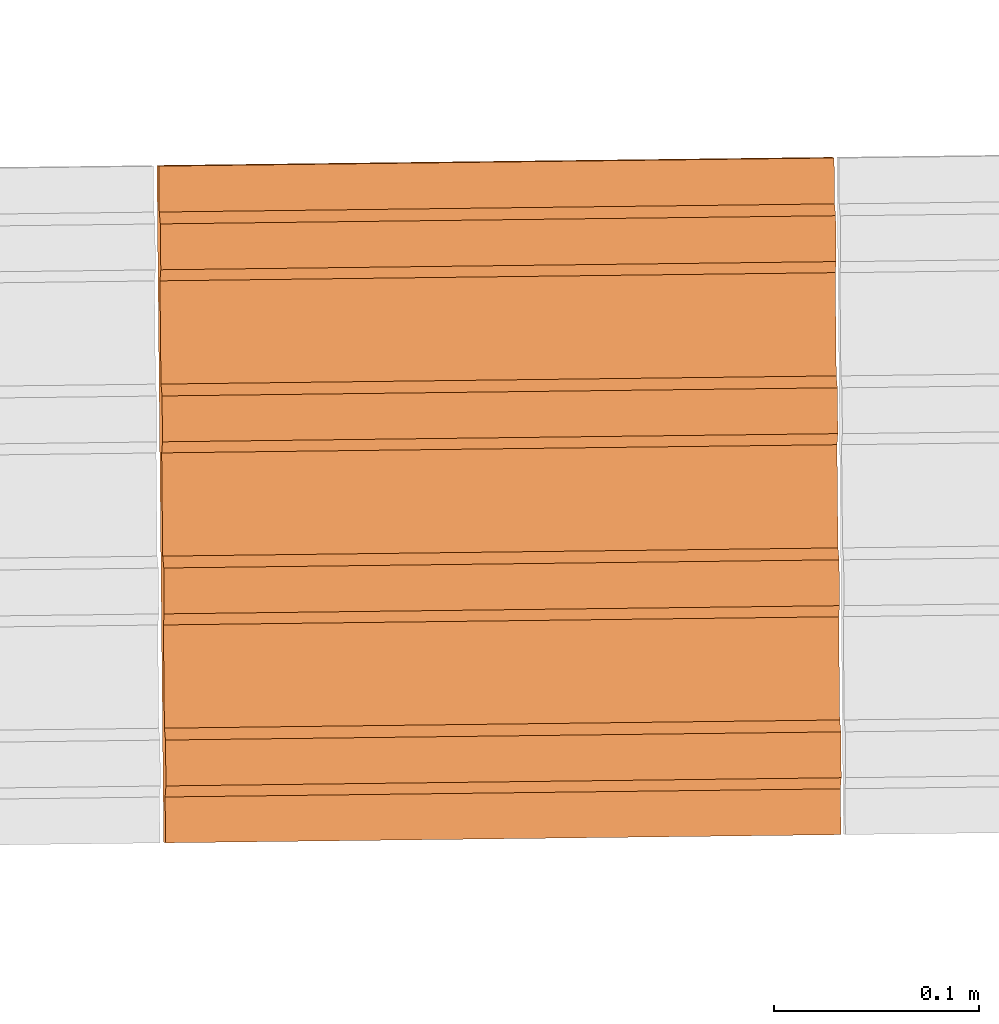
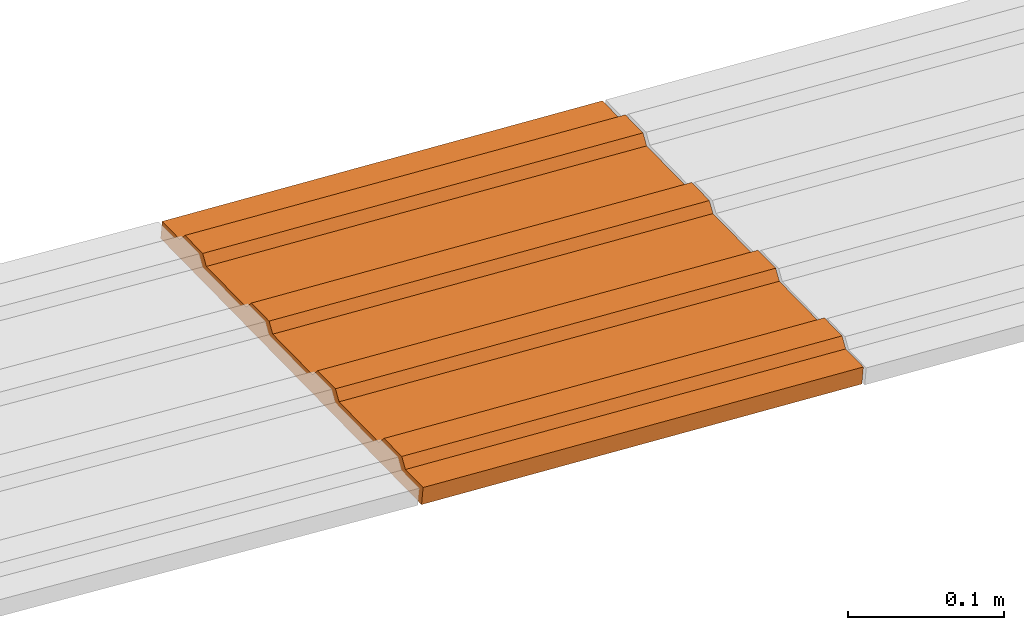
# One storey, part 226 of 237: 1 proxy.
"""IFC2X3 building model written with IfcOpenShell, lengths in millimetres."""

from ifc_helpers import new_model, entity, si_unit, converted_unit, derived_unit, money_unit, direction, frame, origin_with_axes, place, context, subcontext, project, spatial, open_shell, surface_model, type_object, element, save


model = new_model("IFC2X3")

# Units and contexts
model_context = context("Model", 3, precision=0.01, world=origin_with_axes(), true_north=direction((0.0, 1.0)))
body_context = subcontext(model_context, "Body", "Model", "MODEL_VIEW")
ifc_project = project(units=[si_unit("LENGTHUNIT", "METRE", prefix="MILLI"), si_unit("AREAUNIT", "SQUARE_METRE"), si_unit("VOLUMEUNIT", "CUBIC_METRE"), converted_unit("PLANEANGLEUNIT", "DEGREE", entity("IfcPlaneAngleMeasure", 0.0174532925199), si_unit("PLANEANGLEUNIT", "RADIAN"), dimensions=[0, 0, 0, 0, 0, 0, 0]), money_unit("USD"), converted_unit("TIMEUNIT", "Year", entity("IfcTimeMeasure", 31556926.0), si_unit("TIMEUNIT", "SECOND"), dimensions=[0, 0, 1, 0, 0, 0, 0]), si_unit("MASSUNIT", "GRAM", prefix="KILO"), si_unit("THERMODYNAMICTEMPERATUREUNIT", "DEGREE_CELSIUS"), si_unit("LUMINOUSINTENSITYUNIT", "LUMEN"), si_unit("ENERGYUNIT", "JOULE", prefix="MEGA"), derived_unit("THERMALCONDUCTANCEUNIT", [(si_unit("POWERUNIT", "WATT"), 1), (si_unit("LENGTHUNIT", "METRE"), -1), (si_unit("THERMODYNAMICTEMPERATUREUNIT", "KELVIN"), -1)]), derived_unit("SPECIFICHEATCAPACITYUNIT", [(si_unit("ENERGYUNIT", "JOULE"), 1), (si_unit("MASSUNIT", "GRAM", prefix="KILO"), -1), (si_unit("THERMODYNAMICTEMPERATUREUNIT", "KELVIN"), -1)]), derived_unit("MASSDENSITYUNIT", [(si_unit("MASSUNIT", "GRAM", prefix="KILO"), 1), (si_unit("VOLUMEUNIT", "CUBIC_METRE"), -1)])], contexts=[model_context])

# Site, building, storey
site_placement = place(None, origin_with_axes())
site = spatial("IfcSite", under=ifc_project, at=site_placement, Name="Local", CompositionType="ELEMENT")
building_placement = place(site_placement, origin_with_axes())
building = spatial("IfcBuilding", under=site, at=building_placement, Name="Construção", CompositionType="ELEMENT")
storey_placement = place(building_placement, origin_with_axes())
storey = spatial("IfcBuildingStorey", under=building, at=storey_placement, Name="Pavimento Térreo", CompositionType="ELEMENT", Elevation=0.0)

# Proxy
building_element_proxy_type = type_object("IfcBuildingElementProxyType", Name="Piso Direcional 27", PredefinedType="NOTDEFINED")
proxy_placement = place(storey_placement, frame((55476.8423533, 36721.6120867, -1911.76516524), z_axis=(0.0, 0.0, 1.0), x_axis=(-0.999926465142, -0.012127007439, 0.0)))
element("IfcBuildingElementProxy", 1, at=proxy_placement, inside=storey, type_object=building_element_proxy_type, Name="Objeto-0055", context=body_context, shape_type="SurfaceModel", body=[
    surface_model("IfcShellBasedSurfaceModel", [(-0.381556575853, -47.1131586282, 5.45651324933), (328.81458001, -47.1131586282, 28.4761495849), (328.36166876, -41.3189569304, 34.9530822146), (-0.834467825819, -41.3189569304, 11.933445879)], [open_shell([[[0, 1, 2, 3]]])]),
    surface_model("IfcShellBasedSurfaceModel", [(329.517847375, -153.74195939, 18.4189577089), (330.220832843, 176.104125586, 8.36579714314), (329.291180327, 176.511305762, 21.6604475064), (329.243520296, 154.148859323, 22.3420177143), (328.76677903, 148.761837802, 29.1597354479), (328.719118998, 126.399391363, 29.8413056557), (329.172030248, 120.605189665, 23.364373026), (329.064795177, 70.2896851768, 24.8979059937), (328.588053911, 64.9026636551, 31.7156237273), (328.540393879, 42.5402172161, 32.3971939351), (328.993305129, 36.7460155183, 25.9202613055), (328.886070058, -13.5694889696, 27.4537942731), (328.409328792, -18.9565104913, 34.2715120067), (328.36166876, -41.3189569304, 34.9530822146), (328.81458001, -47.1131586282, 28.4761495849), (328.707344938, -97.4286631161, 30.0096825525), (328.230603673, -102.815684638, 36.8274002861), (328.182943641, -125.178131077, 37.508970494), (328.635854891, -130.972332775, 31.0320378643), (328.588194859, -153.334779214, 31.7136080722)], [open_shell([[[0, 1, 2, 3, 4, 5, 6, 7, 8, 9, 10, 11, 12, 13, 14, 15, 16, 17, 18, 19]]])]),
    surface_model("IfcShellBasedSurfaceModel", [(-0.786807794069, -18.9565104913, 11.2518756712), (328.409328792, -18.9565104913, 34.2715120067), (328.886070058, -13.5694889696, 27.4537942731), (-0.310066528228, -13.5694889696, 4.43415793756)], [open_shell([[[0, 1, 2, 3]]])]),
    surface_model("IfcShellBasedSurfaceModel", [(-0.965532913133, -102.815684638, 13.8077639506), (328.230603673, -102.815684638, 36.8274002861), (328.707344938, -97.4286631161, 30.0096825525), (-0.488791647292, -97.4286631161, 6.99004621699)], [open_shell([[[0, 1, 2, 3]]])]),
    surface_model("IfcShellBasedSurfaceModel", [(-0.608082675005, 64.9026636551, 8.69598739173), (328.588053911, 64.9026636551, 31.7156237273), (329.064795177, 70.2896851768, 24.8979059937), (-0.131341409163, 70.2896851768, 1.87826965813)], [open_shell([[[0, 1, 2, 3]]])]),
    surface_model("IfcShellBasedSurfaceModel", [(-0.202831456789, 36.7460155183, 2.9006249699), (328.993305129, 36.7460155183, 25.9202613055), (328.540393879, 42.5402172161, 32.3971939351), (-0.655742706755, 42.5402172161, 9.37755759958)], [open_shell([[[0, 1, 2, 3]]])]),
    surface_model("IfcShellBasedSurfaceModel", [(-0.560281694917, -130.972332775, 8.01240152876), (328.635854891, -130.972332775, 31.0320378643), (328.182943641, -125.178131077, 37.508970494), (-1.01319294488, -125.178131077, 14.4893341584)], [open_shell([[[0, 1, 2, 3]]])]),
    surface_model("IfcShellBasedSurfaceModel", [(0.0950437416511, 176.511305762, -1.35918882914), (0.0473837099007, 154.148859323, -0.677618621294), (329.243520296, 154.148859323, 22.3420177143), (329.291180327, 176.511305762, 21.6604475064)], [open_shell([[[0, 1, 2, 3]]])]),
    surface_model("IfcShellBasedSurfaceModel", [(-0.024106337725, 120.605189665, 0.344736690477), (329.172030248, 120.605189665, 23.364373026), (328.719118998, 126.399391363, 29.8413056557), (-0.477017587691, 126.399391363, 6.82166932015)], [open_shell([[[0, 1, 2, 3]]])]),
    surface_model("IfcShellBasedSurfaceModel", [(-0.429357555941, 148.761837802, 6.14009911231), (328.76677903, 148.761837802, 29.1597354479), (329.243520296, 154.148859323, 22.3420177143), (0.0473837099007, 154.148859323, -0.677618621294)], [open_shell([[[0, 1, 2, 3]]])]),
    surface_model("IfcShellBasedSurfaceModel", [(-0.202831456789, 36.7460155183, 2.9006249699), (-0.310066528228, -13.5694889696, 4.43415793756), (328.886070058, -13.5694889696, 27.4537942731), (328.993305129, 36.7460155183, 25.9202613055)], [open_shell([[[0, 1, 2, 3]]])]),
    surface_model("IfcShellBasedSurfaceModel", [(-0.024106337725, 120.605189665, 0.344736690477), (-0.131341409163, 70.2896851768, 1.87826965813), (329.064795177, 70.2896851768, 24.8979059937), (329.172030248, 120.605189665, 23.364373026)], [open_shell([[[0, 1, 2, 3]]])]),
    surface_model("IfcShellBasedSurfaceModel", [(-0.429357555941, 148.761837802, 6.14009911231), (-0.477017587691, 126.399391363, 6.82166932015), (328.719118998, 126.399391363, 29.8413056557), (328.76677903, 148.761837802, 29.1597354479)], [open_shell([[[0, 1, 2, 3]]])]),
    surface_model("IfcShellBasedSurfaceModel", [(-0.024106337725, 120.605189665, 0.344736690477), (-0.477017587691, 126.399391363, 6.82166932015), (-0.429357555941, 148.761837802, 6.14009911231), (0.0473837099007, 154.148859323, -0.677618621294), (0.0950437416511, 176.511305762, -1.35918882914), (1.02469625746, 176.104125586, -14.6538391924), (0.32171078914, -153.74195939, -4.60067862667), (-0.607941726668, -153.334779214, 8.6939717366), (-0.560281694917, -130.972332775, 8.01240152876), (-1.01319294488, -125.178131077, 14.4893341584), (-0.965532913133, -102.815684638, 13.8077639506), (-0.488791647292, -97.4286631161, 6.99004621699), (-0.381556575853, -47.1131586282, 5.45651324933), (-0.834467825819, -41.3189569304, 11.933445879), (-0.786807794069, -18.9565104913, 11.2518756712), (-0.310066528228, -13.5694889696, 4.43415793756), (-0.202831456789, 36.7460155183, 2.9006249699), (-0.655742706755, 42.5402172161, 9.37755759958), (-0.608082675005, 64.9026636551, 8.69598739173), (-0.131341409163, 70.2896851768, 1.87826965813)], [open_shell([[[0, 1, 2, 3, 4, 5, 6, 7, 8, 9, 10, 11, 12, 13, 14, 15, 16, 17, 18, 19]]])]),
    surface_model("IfcShellBasedSurfaceModel", [(328.36166876, -41.3189569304, 34.9530822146), (328.409328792, -18.9565104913, 34.2715120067), (-0.786807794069, -18.9565104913, 11.2518756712), (-0.834467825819, -41.3189569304, 11.933445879)], [open_shell([[[0, 1, 2, 3]]])]),
    surface_model("IfcShellBasedSurfaceModel", [(-0.381556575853, -47.1131586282, 5.45651324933), (-0.488791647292, -97.4286631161, 6.99004621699), (328.707344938, -97.4286631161, 30.0096825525), (328.81458001, -47.1131586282, 28.4761495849)], [open_shell([[[0, 1, 2, 3]]])]),
    surface_model("IfcShellBasedSurfaceModel", [(328.540393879, 42.5402172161, 32.3971939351), (328.588053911, 64.9026636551, 31.7156237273), (-0.608082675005, 64.9026636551, 8.69598739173), (-0.655742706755, 42.5402172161, 9.37755759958)], [open_shell([[[0, 1, 2, 3]]])]),
    surface_model("IfcShellBasedSurfaceModel", [(328.182943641, -125.178131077, 37.508970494), (328.230603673, -102.815684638, 36.8274002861), (-0.965532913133, -102.815684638, 13.8077639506), (-1.01319294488, -125.178131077, 14.4893341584)], [open_shell([[[0, 1, 2, 3]]])]),
    surface_model("IfcShellBasedSurfaceModel", [(330.220832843, 176.104125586, 8.36579714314), (1.02469625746, 176.104125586, -14.6538391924), (0.0950437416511, 176.511305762, -1.35918882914), (329.291180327, 176.511305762, 21.6604475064)], [open_shell([[[0, 1, 2, 3]]])]),
    surface_model("IfcShellBasedSurfaceModel", [(329.517847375, -153.74195939, 18.4189577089), (0.32171078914, -153.74195939, -4.60067862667), (1.02469625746, 176.104125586, -14.6538391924), (330.220832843, 176.104125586, 8.36579714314)], [open_shell([[[0, 1, 2, 3]]])]),
    surface_model("IfcShellBasedSurfaceModel", [(328.588194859, -153.334779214, 31.7136080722), (328.635854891, -130.972332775, 31.0320378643), (-0.560281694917, -130.972332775, 8.01240152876), (-0.607941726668, -153.334779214, 8.6939717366)], [open_shell([[[0, 1, 2, 3]]])]),
    surface_model("IfcShellBasedSurfaceModel", [(0.32171078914, -153.74195939, -4.60067862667), (329.517847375, -153.74195939, 18.4189577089), (328.588194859, -153.334779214, 31.7136080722), (-0.607941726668, -153.334779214, 8.6939717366)], [open_shell([[[0, 1, 2, 3]]])]),
])

save(model, "model.ifc")
